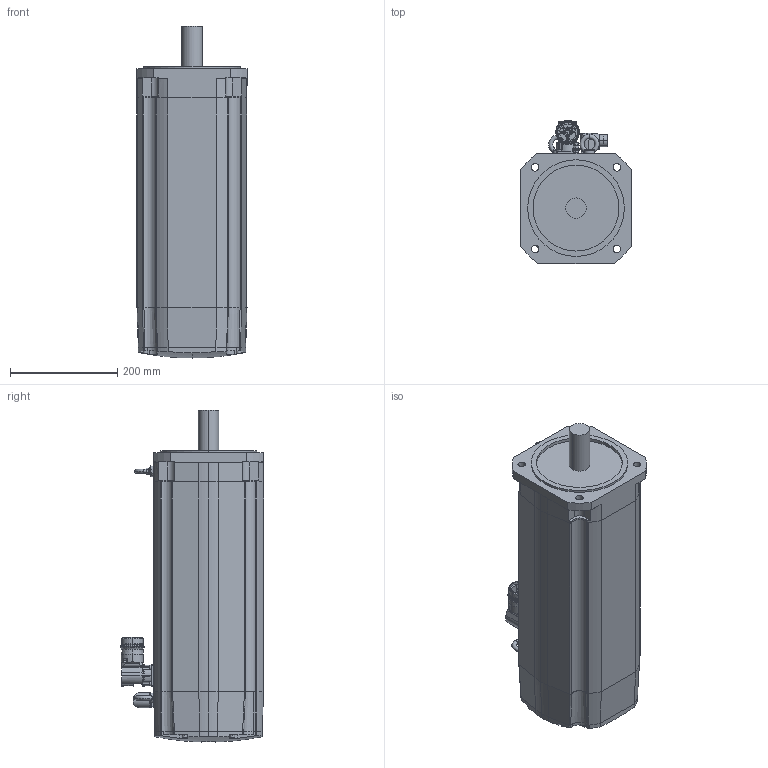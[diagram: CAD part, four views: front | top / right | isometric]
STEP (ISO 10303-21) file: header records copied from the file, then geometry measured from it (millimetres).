
FILE_DESCRIPTION (( 'STEP AP214' ), '1' );
FILE_NAME ('SH32053x0xF2100.STEP', '2013-11-29T13:16:16', ( 'Windows User' ), ( 'Schneider-Electric' ), 'SwSTEP 2.0', 'SolidWorks 2010', '' );
FILE_SCHEMA (( 'AUTOMOTIVE_DESIGN' ));
Length unit declared in the file: millimetre
Products named in the file (9): 1-100011024_K-FLANSCH SH205X_000_Flansch mit Welle ohne Passfedernut; 1-100011023_K-GEHÄUSE SH3-205X_000_Gehäuse stack 3 mit Bremse; 1-100011025_K-LAGERSCHILD SH205X_000; 1-100011027_K-DECKEL SH205_000; 1-100009587_K-ERDUNGSBOLZEN M6_VM1; Ringschraube DIN 580 M 8     0000019855011; K-ENCODER-CONINVERS-ABGEW_ENCODER-CONINVERS-ABGEWINKELT_000_Single- MultiTurn; 1-100010211_POWER M40 ABGEWINKELT VEREINFACHT_000_ohne Bremse; SH32053x0xF2100
Assembly tree (9 placements, depth 2):
  SH32053x0xF2100
    Ringschraube DIN 580 M 8     0000019855011  x2
    1-100011024_K-FLANSCH SH205X_000_Flansch mit Welle ohne Passfedernut
    1-100011027_K-DECKEL SH205_000
    1-100009587_K-ERDUNGSBOLZEN M6_VM1
    1-100011025_K-LAGERSCHILD SH205X_000
    1-100011023_K-GEHÄUSE SH3-205X_000_Gehäuse stack 3 mit Bremse
    1-100010211_POWER M40 ABGEWINKELT VEREINFACHT_000_ohne Bremse
    K-ENCODER-CONINVERS-ABGEW_ENCODER-CONINVERS-ABGEWINKELT_000_Single- MultiTurn
Bounding box: 205 x 266.5 x 618.33 mm (x, y, z)
Volume: 19114272 mm3; surface area: 728777.3 mm2
Topology: 9 solids, 9 shells, 776 faces, 1955 edges, 1253 vertices
Faces by surface type: cylinder 321, plane 304, bspline 74, cone 45, torus 28, sphere 4
Entity records: 30253 total; most frequent: CARTESIAN_POINT 8018, DIRECTION 3828, ORIENTED_EDGE 3746, EDGE_CURVE 1873, AXIS2_PLACEMENT_3D 1471, VERTEX_POINT 1214, VECTOR 886, LINE 886
